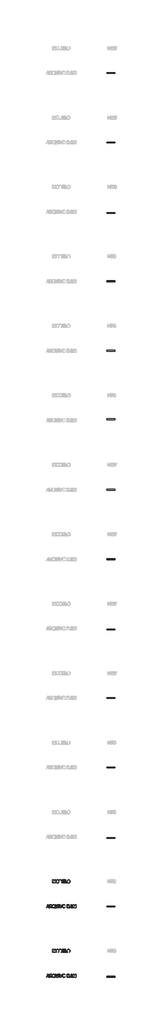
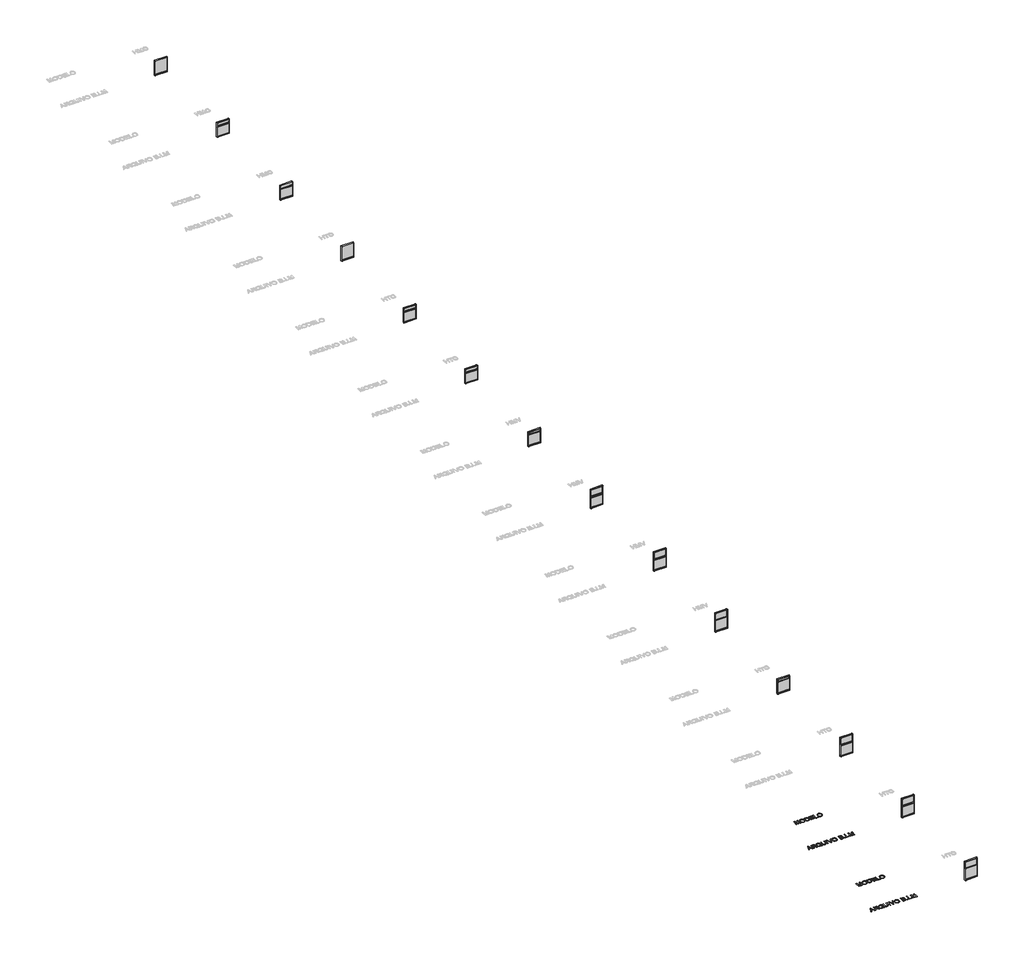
# One storey, part 1 of 8: 14 furniture elements, 4 proxies.
"""IFC4 building model written with IfcOpenShell, lengths in millimetres."""

from ifc_helpers import new_model, si_unit, origin, origin_with_axes, place, context, project, spatial, polyline, outline, extrude, transform, mapped, element, save
from components import hmc_0810_8c3ba47c, hmc_0810b_49ee08f0, hmc_0810bd_d5e68017, hmv_0810_a3c802d2, hmv_0813_b_0aa352a4, hmv_0813_bd_09db433a, hmv_0813sb_63d43438

model = new_model("IFC4")

# Units and contexts
model_context = context("Model", 3, world=origin())
ifc_project = project(units=[si_unit("LENGTHUNIT", "METRE", prefix="MILLI")], contexts=[model_context])

# Site, building, storey
site = spatial("IfcSite", under=ifc_project)
building = spatial("IfcBuilding", under=site)
storey = spatial("IfcBuildingStorey", under=building, Name="Marelli - Linha HABITAT - Planta Baixa", Elevation=0.0)

# Proxies
placement = place(None, origin())
element("IfcBuildingElementProxy", 1, Name="300mm Arial", ObjectType="300mm Arial", at=placement, inside=storey, context=model_context, shape_type="SweptSolid", body=[
    extrude(outline(polyline([(29390.580402, -80280.5663201), (29510.8778144, -79979.1973896), (29542.9571244, -79979.1973896), (29663.2545368, -80280.5663201), (29623.449705, -80280.5663201), (29588.9423738, -80186.3885293), (29464.8189886, -80186.3885293), (29430.3852339, -80280.5663201), (29390.580402, -80280.5663201)]), holes=[polyline([(29478.6513517, -80148.717413), (29575.1835872, -80148.717413), (29548.0338959, -80074.6259792), (29526.9174694, -80016.8685059), (29508.1554877, -80068.1512561), (29478.6513517, -80148.717413)])]), origin_with_axes(), (0.0, 0.0, 1.0), 10.0),
    extrude(outline(polyline([(29703.5008271, -80280.5663201), (29703.5008271, -79979.1973896), (29833.3631714, -79979.1973896), (29868.2659757, -79981.2299376), (29893.6590304, -79987.3275817), (29912.2186771, -79998.5847708), (29926.6212572, -80016.0959537), (29935.8642923, -80037.8101885), (29938.945304, -80061.6765329), (29933.8409413, -80091.3646099), (29918.5278533, -80115.9759154), (29906.9280741, -80126.0052983), (29892.5461874, -80134.0205273), (29855.4360911, -80144.0085235), (29876.8468232, -80160.1217548), (29907.3810288, -80198.8965171), (29957.6337094, -80280.5663201), (29913.855752, -80280.5663201), (29874.6395313, -80218.0999573), (29846.3126176, -80176.750021), (29826.4102017, -80157.2154871), (29808.4943485, -80150.0417882), (29786.642158, -80148.717413), (29741.1719434, -80148.717413), (29741.1719434, -80280.5663201), (29703.5008271, -80280.5663201)]), holes=[polyline([(29741.1719434, -80111.0462967), (29825.4904967, -80111.0462967), (29849.706329, -80109.7127245), (29868.4959019, -80105.7120078), (29882.6409647, -80098.7774322), (29892.9232664, -80088.6422832), (29899.1864574, -80076.3826157), (29901.2741877, -80063.0744845), (29897.2918651, -80044.6987789), (29885.3448973, -80029.8915286), (29864.7894908, -80020.1242616), (29834.9818522, -80016.8685059), (29741.1719434, -80016.8685059), (29741.1719434, -80111.0462967)])]), origin_with_axes(), (0.0, 0.0, 1.0), 10.0),
    extrude(outline(polyline([(30231.2643374, -80244.4403081), (30255.5997314, -80263.036743), (30277.9853508, -80275.8574305), (30267.8318077, -80303.4485802), (30236.7641732, -80289.0460001), (30205.8069033, -80268.205485), (30170.9500843, -80281.0077785), (30132.5983863, -80285.2752096), (30094.0627473, -80280.3547879), (30059.2427164, -80265.5935229), (30030.0788713, -80241.9203165), (30008.5117893, -80210.2640708), (29995.185264, -80172.3630282), (29990.7430889, -80129.9554312), (29995.176067, -80087.511046), (30008.4750011, -80049.0581805), (30029.9593096, -80016.9512794), (30058.9484108, -79993.5447874), (30093.639683, -79979.2525719), (30132.2305043, -79974.4885001), (30171.1248282, -79979.3629365), (30205.9908443, -79993.9862458), (30234.9339603, -80017.3835407), (30256.0595839, -80048.5799339), (30268.9722419, -80085.9199564), (30273.2764612, -80127.7481393), (30270.6644991, -80162.5313819), (30262.8286126, -80193.5990164), (30249.7136194, -80220.9142546), (30231.2643374, -80244.4403081)]), holes=[polyline([(30142.9726585, -80194.3347804), (30174.6472983, -80206.3093393), (30200.215097, -80222.9559996), (30215.6983305, -80205.4816049), (30226.7577829, -80184.1076609), (30233.3934544, -80158.8341679), (30235.6053449, -80129.6611256), (30232.478348, -80096.5057608), (30223.0973571, -80067.8201623), (30207.6922985, -80044.3308969), (30186.4930986, -80026.7645316), (30160.934497, -80015.8108452), (30132.4512335, -80012.1596164), (30110.966925, -80014.0059242), (30091.3956028, -80019.5448474), (30073.7372671, -80028.7763863), (30057.9919177, -80041.7005406), (30045.0516685, -80058.2897193), (30035.8086334, -80078.5163313), (30030.2628123, -80102.3803764), (30028.4142053, -80129.8818548), (30030.2421189, -80156.6659634), (30035.7258599, -80180.1437324), (30044.8654282, -80200.3151621), (30057.6608239, -80217.1802523), (30073.2981079, -80230.4906827), (30090.9633415, -80239.9981331), (30110.6565245, -80245.7026032), (30132.3776571, -80247.6040933), (30153.2917485, -80245.6727128), (30172.918253, -80239.8785714), (30153.6228423, -80229.853787), (30133.2605739, -80223.1767288), (30142.9726585, -80194.3347804)])]), origin_with_axes(), (0.0, 0.0, 1.0), 10.0),
    extrude(outline(polyline([(30527.5564963, -79979.1973896), (30565.2276126, -79979.1973896), (30565.2276126, -80153.0584205), (30562.6708327, -80193.7737604), (30555.0004931, -80225.1265034), (30540.6714894, -80249.3147446), (30518.1387172, -80268.5365788), (30487.3469942, -80281.0905519), (30448.2411381, -80285.2752096), (30409.9906077, -80281.6331779), (30379.4104168, -80270.7070826), (30356.4913685, -80252.8740029), (30341.2242657, -80228.5110178), (30332.6434182, -80195.8338995), (30329.7831357, -80153.0584205), (30329.7831357, -79979.1973896), (30367.454252, -79979.1973896), (30367.454252, -80151.7340454), (30369.3120561, -80185.588386), (30374.8854683, -80209.1604248), (30384.9838291, -80225.4851883), (30400.4164788, -80237.597703), (30420.5396239, -80245.1024957), (30444.709471, -80247.6040933), (30483.0243808, -80242.6560805), (30497.3671801, -80236.4710644), (30508.500209, -80227.812042), (30516.8373347, -80215.6351479), (30522.7924245, -80198.8965171), (30527.5564963, -80151.7340454), (30527.5564963, -79979.1973896)])), origin_with_axes(), (0.0, 0.0, 1.0), 10.0),
    extrude(outline(polyline([(30635.8609557, -80280.5663201), (30635.8609557, -79979.1973896), (30673.532072, -79979.1973896), (30673.532072, -80280.5663201), (30635.8609557, -80280.5663201)])), origin_with_axes(), (0.0, 0.0, 1.0), 10.0),
    extrude(outline(polyline([(30837.9017474, -80280.5663201), (30717.972217, -79979.1973896), (30758.2920837, -79979.1973896), (30838.563935, -80196.3213432), (30854.8243192, -80245.2496485), (30870.8639742, -80196.3213432), (30951.3565547, -79979.1973896), (30991.6764214, -79979.1973896), (30876.8236625, -80280.5663201), (30837.9017474, -80280.5663201)])), origin_with_axes(), (0.0, 0.0, 1.0), 10.0),
    extrude(outline(polyline([(31012.5721187, -80133.8549804), (31015.0829134, -80098.5061192), (31022.6152972, -80067.213157), (31035.1692703, -80039.9760937), (31052.7448326, -80016.7949295), (31074.288922, -79998.2858666), (31098.7484761, -79985.0651074), (31126.1234951, -79977.1326519), (31156.4139789, -79974.4885001), (31195.9428992, -79979.454907), (31231.3883295, -79994.3541278), (31260.8188891, -80018.1376988), (31282.3031976, -80049.7571563), (31295.4365848, -80087.68579), (31299.8143806, -80130.3968896), (31295.2066586, -80173.6782064), (31281.3834926, -80212.140269), (31259.1082378, -80243.8149088), (31229.1442493, -80266.733957), (31194.0023217, -80280.6398965), (31156.1932497, -80285.2752096), (31116.057324, -80280.1524528), (31080.4095587, -80264.7841825), (31051.0525754, -80240.5591531), (31029.7889961, -80208.8661192), (31016.8763381, -80172.3998164), (31012.5721187, -80133.8549804)]), holes=[polyline([(31050.2432351, -80134.2228624), (31052.126331, -80159.1974513), (31057.7756189, -80181.3669401), (31067.1910987, -80200.7313286), (31080.3727705, -80217.2906169), (31096.3963306, -80230.5527628), (31114.3374757, -80240.0257242), (31134.1962056, -80245.709501), (31155.9725205, -80247.6040933), (31178.1213158, -80245.6911069), (31198.2145706, -80239.9521478), (31216.2522846, -80230.3872159), (31232.2344581, -80216.9963113), (31245.3195608, -80200.0875351), (31254.6660627, -80179.9689885), (31260.2739639, -80156.6406715), (31262.1432643, -80130.102584), (31258.9426909, -80096.7540812), (31249.3409708, -80067.9305269), (31233.5864244, -80044.358488), (31211.9273719, -80026.7645316), (31185.7985532, -80015.8108452), (31156.6347081, -80012.1596164), (31135.6148506, -80013.9185522), (31116.1125063, -80019.1953595), (31098.1276753, -80027.9900385), (31081.6603574, -80040.302589), (31067.9153664, -80056.7262208), (31058.0975157, -80077.8541437), (31052.2068052, -80103.6863575), (31050.2432351, -80134.2228624)])]), origin_with_axes(), (0.0, 0.0, 1.0), 10.0),
    extrude(outline(polyline([(31469.334404, -80280.5663201), (31469.334404, -79979.1973896), (31584.3343157, -79979.1973896), (31615.9629702, -79981.4138786), (31640.6570491, -79988.0633457), (31659.5845778, -79999.3113377), (31673.9135815, -80015.3234015), (31682.9358874, -80034.1589597), (31685.9433227, -80053.8774346), (31683.414134, -80072.0232141), (31675.8265679, -80089.0837416), (31663.125442, -80104.0105535), (31645.2555741, -80115.7551862), (31666.6019268, -80126.9020107), (31682.3748674, -80143.8613707), (31692.1145432, -80165.5112261), (31695.3611018, -80190.7295368), (31693.1446128, -80211.7447958), (31686.4951457, -80231.2333445), (31676.5715289, -80247.8064284), (31664.5325906, -80260.0752929), (31649.7897196, -80268.9596431), (31631.7543048, -80275.3791839), (31583.4513989, -80280.5663201), (31469.334404, -80280.5663201)]), holes=[polyline([(31507.0055203, -80101.6285176), (31575.7994534, -80101.6285176), (31615.9721672, -80098.3911561), (31630.0344565, -80092.8085468), (31640.1420143, -80084.4484284), (31646.2396584, -80073.4395597), (31648.2722064, -80059.9106994), (31646.3776141, -80046.7773121), (31640.6938373, -80035.3361821), (31631.4783933, -80026.4058467), (31618.9887996, -80020.8048433), (31570.575529, -80016.8685059), (31507.0055203, -80016.8685059), (31507.0055203, -80101.6285176)]), polyline([(31507.0055203, -80242.8952038), (31584.2607393, -80242.8952038), (31612.2197709, -80241.4236758), (31635.8745832, -80233.2199073), (31651.5463562, -80216.4812765), (31656.1540782, -80204.6538704), (31657.6899855, -80191.0974188), (31655.8873637, -80175.3520694), (31650.4794984, -80161.814012), (31641.0341282, -80151.2282076), (31627.1189917, -80144.3396173), (31607.4097138, -80140.5596298), (31580.5819193, -80139.2996339), (31507.0055203, -80139.2996339), (31507.0055203, -80242.8952038)])]), origin_with_axes(), (0.0, 0.0, 1.0), 10.0),
    extrude(outline(polyline([(31751.8677763, -80280.5663201), (31751.8677763, -80242.8952038), (31789.5388926, -80242.8952038), (31789.5388926, -80280.5663201), (31751.8677763, -80280.5663201)])), origin_with_axes(), (0.0, 0.0, 1.0), 10.0),
    extrude(outline(polyline([(31869.5900147, -80280.5663201), (31869.5900147, -79979.1973896), (31907.261131, -79979.1973896), (31907.261131, -80280.5663201), (31869.5900147, -80280.5663201)])), origin_with_axes(), (0.0, 0.0, 1.0), 10.0),
    extrude(outline(polyline([(31987.3122532, -80280.5663201), (31987.3122532, -80242.8952038), (32024.9833695, -80242.8952038), (32024.9833695, -80280.5663201), (31987.3122532, -80280.5663201)])), origin_with_axes(), (0.0, 0.0, 1.0), 10.0),
    extrude(outline(polyline([(32100.3256021, -80280.5663201), (32100.3256021, -79979.1973896), (32165.1464096, -79979.1973896), (32226.803432, -80191.6124536), (32239.2378435, -80235.9790223), (32252.7023245, -80187.9336337), (32313.3292773, -79979.1973896), (32378.1500848, -79979.1973896), (32378.1500848, -80280.5663201), (32340.4789685, -80280.5663201), (32340.4789685, -80016.8685059), (32264.7688539, -80280.5663201), (32213.706833, -80280.5663201), (32137.9967184, -80016.8685059), (32137.9967184, -80280.5663201), (32100.3256021, -80280.5663201)])), origin_with_axes(), (0.0, 0.0, 1.0), 10.0),
])
element("IfcBuildingElementProxy", 2, Name="300mm Arial", ObjectType="300mm Arial", at=placement, inside=storey, context=model_context, shape_type="SweptSolid", body=[
    extrude(outline(polyline([(30033.1230948, -77780.5663201), (30033.1230948, -77479.1973896), (30097.9439023, -77479.1973896), (30159.6009247, -77691.6124536), (30172.0353362, -77735.9790223), (30185.4998172, -77687.9336337), (30246.12677, -77479.1973896), (30310.9475775, -77479.1973896), (30310.9475775, -77780.5663201), (30273.2764612, -77780.5663201), (30273.2764612, -77516.8685059), (30197.5663466, -77780.5663201), (30146.5043257, -77780.5663201), (30070.7942111, -77516.8685059), (30070.7942111, -77780.5663201), (30033.1230948, -77780.5663201)])), origin_with_axes(), (0.0, 0.0, 1.0), 10.0),
    extrude(outline(polyline([(30362.7453625, -77633.8549804), (30365.2561571, -77598.5061192), (30372.7885409, -77567.213157), (30385.342514, -77539.9760937), (30402.9180763, -77516.7949295), (30424.4621657, -77498.2858666), (30448.9217198, -77485.0651074), (30476.2967388, -77477.1326519), (30506.5872226, -77474.4885001), (30546.116143, -77479.454907), (30581.5615732, -77494.3541278), (30610.9921328, -77518.1376988), (30632.4764413, -77549.7571563), (30645.6098286, -77587.68579), (30649.9876243, -77630.3968896), (30645.3799023, -77673.6782064), (30631.5567363, -77712.140269), (30609.2814815, -77743.8149088), (30579.317493, -77766.733957), (30544.1755654, -77780.6398965), (30506.3664934, -77785.2752096), (30466.2305677, -77780.1524528), (30430.5828024, -77764.7841825), (30401.2258192, -77740.5591531), (30379.9622398, -77708.8661192), (30367.0495818, -77672.3998164), (30362.7453625, -77633.8549804)]), holes=[polyline([(30400.4164788, -77634.2228624), (30402.2995747, -77659.1974513), (30407.9488626, -77681.3669401), (30417.3643424, -77700.7313286), (30430.5460142, -77717.2906169), (30446.5695743, -77730.5527628), (30464.5107194, -77740.0257242), (30484.3694493, -77745.709501), (30506.1457642, -77747.6040933), (30528.2945596, -77745.6911069), (30548.3878143, -77739.9521478), (30566.4255284, -77730.3872159), (30582.4077018, -77716.9963113), (30595.4928045, -77700.0875351), (30604.8393064, -77679.9689885), (30610.4472076, -77656.6406715), (30612.316508, -77630.102584), (30609.1159346, -77596.7540812), (30599.5142146, -77567.9305269), (30583.7596681, -77544.358488), (30562.1006157, -77526.7645316), (30535.9717969, -77515.8108452), (30506.8079518, -77512.1596164), (30485.7880943, -77513.9185522), (30466.28575, -77519.1953595), (30448.300919, -77527.9900385), (30431.8336012, -77540.302589), (30418.0886101, -77556.7262208), (30408.2707594, -77577.8541437), (30402.3800489, -77603.6863575), (30400.4164788, -77634.2228624)])]), origin_with_axes(), (0.0, 0.0, 1.0), 10.0),
    extrude(outline(polyline([(30701.7854092, -77780.5663201), (30701.7854092, -77479.1973896), (30805.7488611, -77479.1973896), (30859.5332088, -77483.5383972), (30883.555903, -77491.9077126), (30903.826201, -77505.0962821), (30924.666716, -77528.0521186), (30939.5107545, -77556.5997614), (30948.3951047, -77590.1873876), (30951.3565547, -77628.2631741), (30949.3515979, -77660.6091985), (30943.3367273, -77689.0740679), (30934.1764656, -77713.3082943), (30922.7353355, -77732.9623899), (30909.5651601, -77748.477813), (30895.2177623, -77760.2960221), (30878.745846, -77769.0608107), (30859.202115, -77775.4159721), (30810.7520562, -77780.5663201), (30701.7854092, -77780.5663201)]), holes=[polyline([(30739.4565255, -77742.8952038), (30806.1167431, -77742.8952038), (30833.6894986, -77741.5340404), (30854.60359, -77737.4505502), (30870.3857276, -77730.8838566), (30882.5626217, -77722.0730828), (30895.6500236, -77705.7667134), (30905.48167, -77684.6594839), (30911.6344963, -77658.6594239), (30913.6854384, -77627.6745629), (30909.6663276, -77586.6189322), (30897.6089953, -77556.3054558), (30879.7943096, -77535.4833349), (30858.5031392, -77522.9017706), (30836.8348897, -77518.3768221), (30805.0866735, -77516.8685059), (30739.4565255, -77516.8685059), (30739.4565255, -77742.8952038)])]), origin_with_axes(), (0.0, 0.0, 1.0), 10.0),
    extrude(outline(polyline([(31003.1543397, -77780.5663201), (31003.1543397, -77479.1973896), (31219.7632584, -77479.1973896), (31219.7632584, -77516.8685059), (31040.825456, -77516.8685059), (31040.825456, -77606.3374072), (31210.3454794, -77606.3374072), (31210.3454794, -77644.0085235), (31040.825456, -77644.0085235), (31040.825456, -77742.8952038), (31224.472148, -77742.8952038), (31224.472148, -77780.5663201), (31003.1543397, -77780.5663201)])), origin_with_axes(), (0.0, 0.0, 1.0), 10.0),
    extrude(outline(polyline([(31280.9788224, -77780.5663201), (31280.9788224, -77479.1973896), (31318.6499387, -77479.1973896), (31318.6499387, -77742.8952038), (31469.334404, -77742.8952038), (31469.334404, -77780.5663201), (31280.9788224, -77780.5663201)])), origin_with_axes(), (0.0, 0.0, 1.0), 10.0),
    extrude(outline(polyline([(31497.5877412, -77633.8549804), (31500.0985358, -77598.5061192), (31507.6309197, -77567.213157), (31520.1848927, -77539.9760937), (31537.7604551, -77516.7949295), (31559.3045444, -77498.2858666), (31583.7640986, -77485.0651074), (31611.1391175, -77477.1326519), (31641.4296013, -77474.4885001), (31680.9585217, -77479.454907), (31716.4039519, -77494.3541278), (31745.8345115, -77518.1376988), (31767.3188201, -77549.7571563), (31780.4522073, -77587.68579), (31784.830003, -77630.3968896), (31780.222281, -77673.6782064), (31766.3991151, -77712.140269), (31744.1238603, -77743.8149088), (31714.1598717, -77766.733957), (31679.0179442, -77780.6398965), (31641.2088721, -77785.2752096), (31601.0729464, -77780.1524528), (31565.4251811, -77764.7841825), (31536.0681979, -77740.5591531), (31514.8046186, -77708.8661192), (31501.8919605, -77672.3998164), (31497.5877412, -77633.8549804)]), holes=[polyline([(31535.2588575, -77634.2228624), (31537.1419535, -77659.1974513), (31542.7912413, -77681.3669401), (31552.2067212, -77700.7313286), (31565.3883929, -77717.2906169), (31581.4119531, -77730.5527628), (31599.3530981, -77740.0257242), (31619.2118281, -77745.709501), (31640.9881429, -77747.6040933), (31663.1369383, -77745.6911069), (31683.230193, -77739.9521478), (31701.2679071, -77730.3872159), (31717.2500805, -77716.9963113), (31730.3351832, -77700.0875351), (31739.6816852, -77679.9689885), (31745.2895863, -77656.6406715), (31747.1588867, -77630.102584), (31743.9583134, -77596.7540812), (31734.3565933, -77567.9305269), (31718.6020468, -77544.358488), (31696.9429944, -77526.7645316), (31670.8141757, -77515.8108452), (31641.6503305, -77512.1596164), (31620.630473, -77513.9185522), (31601.1281287, -77519.1953595), (31583.1432977, -77527.9900385), (31566.6759799, -77540.302589), (31552.9309888, -77556.7262208), (31543.1131381, -77577.8541437), (31537.2224276, -77603.6863575), (31535.2588575, -77634.2228624)])]), origin_with_axes(), (0.0, 0.0, 1.0), 10.0),
])
element("IfcBuildingElementProxy", 3, Name="300mm Arial", ObjectType="300mm Arial", at=placement, inside=storey, context=model_context, shape_type="SweptSolid", body=[
    extrude(outline(polyline([(29390.580402, -87280.5663201), (29510.8778144, -86979.1973896), (29542.9571244, -86979.1973896), (29663.2545368, -87280.5663201), (29623.449705, -87280.5663201), (29588.9423738, -87186.3885293), (29464.8189886, -87186.3885293), (29430.3852339, -87280.5663201), (29390.580402, -87280.5663201)]), holes=[polyline([(29478.6513517, -87148.717413), (29575.1835872, -87148.717413), (29548.0338959, -87074.6259792), (29526.9174694, -87016.8685059), (29508.1554877, -87068.1512561), (29478.6513517, -87148.717413)])]), origin_with_axes(), (0.0, 0.0, 1.0), 10.0),
    extrude(outline(polyline([(29703.5008271, -87280.5663201), (29703.5008271, -86979.1973896), (29833.3631714, -86979.1973896), (29868.2659757, -86981.2299376), (29893.6590304, -86987.3275817), (29912.2186771, -86998.5847708), (29926.6212572, -87016.0959537), (29935.8642923, -87037.8101885), (29938.945304, -87061.6765329), (29933.8409413, -87091.3646099), (29918.5278533, -87115.9759154), (29906.9280741, -87126.0052983), (29892.5461874, -87134.0205273), (29855.4360911, -87144.0085235), (29876.8468232, -87160.1217548), (29907.3810288, -87198.8965171), (29957.6337094, -87280.5663201), (29913.855752, -87280.5663201), (29874.6395313, -87218.0999573), (29846.3126176, -87176.750021), (29826.4102017, -87157.2154871), (29808.4943485, -87150.0417882), (29786.642158, -87148.717413), (29741.1719434, -87148.717413), (29741.1719434, -87280.5663201), (29703.5008271, -87280.5663201)]), holes=[polyline([(29741.1719434, -87111.0462967), (29825.4904967, -87111.0462967), (29849.706329, -87109.7127245), (29868.4959019, -87105.7120078), (29882.6409647, -87098.7774322), (29892.9232664, -87088.6422832), (29899.1864574, -87076.3826157), (29901.2741877, -87063.0744845), (29897.2918651, -87044.6987789), (29885.3448973, -87029.8915286), (29864.7894908, -87020.1242616), (29834.9818522, -87016.8685059), (29741.1719434, -87016.8685059), (29741.1719434, -87111.0462967)])]), origin_with_axes(), (0.0, 0.0, 1.0), 10.0),
    extrude(outline(polyline([(30231.2643374, -87244.4403081), (30255.5997314, -87263.036743), (30277.9853508, -87275.8574305), (30267.8318077, -87303.4485802), (30236.7641732, -87289.0460001), (30205.8069033, -87268.205485), (30170.9500843, -87281.0077785), (30132.5983863, -87285.2752096), (30094.0627473, -87280.3547879), (30059.2427164, -87265.5935229), (30030.0788713, -87241.9203165), (30008.5117893, -87210.2640708), (29995.185264, -87172.3630282), (29990.7430889, -87129.9554312), (29995.176067, -87087.511046), (30008.4750011, -87049.0581805), (30029.9593096, -87016.9512794), (30058.9484108, -86993.5447874), (30093.639683, -86979.2525719), (30132.2305043, -86974.4885001), (30171.1248282, -86979.3629365), (30205.9908443, -86993.9862458), (30234.9339603, -87017.3835407), (30256.0595839, -87048.5799339), (30268.9722419, -87085.9199564), (30273.2764612, -87127.7481393), (30270.6644991, -87162.5313819), (30262.8286126, -87193.5990164), (30249.7136194, -87220.9142546), (30231.2643374, -87244.4403081)]), holes=[polyline([(30142.9726585, -87194.3347804), (30174.6472983, -87206.3093393), (30200.215097, -87222.9559996), (30215.6983305, -87205.4816049), (30226.7577829, -87184.1076609), (30233.3934544, -87158.8341679), (30235.6053449, -87129.6611256), (30232.478348, -87096.5057608), (30223.0973571, -87067.8201623), (30207.6922985, -87044.3308969), (30186.4930986, -87026.7645316), (30160.934497, -87015.8108452), (30132.4512335, -87012.1596164), (30110.966925, -87014.0059242), (30091.3956028, -87019.5448474), (30073.7372671, -87028.7763863), (30057.9919177, -87041.7005406), (30045.0516685, -87058.2897193), (30035.8086334, -87078.5163313), (30030.2628123, -87102.3803764), (30028.4142052, -87129.8818548), (30030.2421189, -87156.6659634), (30035.7258599, -87180.1437324), (30044.8654282, -87200.3151621), (30057.6608239, -87217.1802523), (30073.2981079, -87230.4906827), (30090.9633415, -87239.9981331), (30110.6565245, -87245.7026032), (30132.3776571, -87247.6040933), (30153.2917485, -87245.6727128), (30172.918253, -87239.8785714), (30153.6228423, -87229.853787), (30133.2605739, -87223.1767288), (30142.9726585, -87194.3347804)])]), origin_with_axes(), (0.0, 0.0, 1.0), 10.0),
    extrude(outline(polyline([(30527.5564963, -86979.1973896), (30565.2276126, -86979.1973896), (30565.2276126, -87153.0584205), (30562.6708327, -87193.7737604), (30555.0004931, -87225.1265034), (30540.6714894, -87249.3147446), (30518.1387172, -87268.5365788), (30487.3469942, -87281.0905519), (30448.2411381, -87285.2752096), (30409.9906077, -87281.6331779), (30379.4104168, -87270.7070826), (30356.4913685, -87252.8740029), (30341.2242657, -87228.5110178), (30332.6434182, -87195.8338995), (30329.7831357, -87153.0584205), (30329.7831357, -86979.1973896), (30367.454252, -86979.1973896), (30367.454252, -87151.7340454), (30369.3120561, -87185.588386), (30374.8854683, -87209.1604248), (30384.9838291, -87225.4851883), (30400.4164788, -87237.597703), (30420.5396239, -87245.1024957), (30444.709471, -87247.6040933), (30483.0243808, -87242.6560805), (30497.3671801, -87236.4710644), (30508.500209, -87227.812042), (30516.8373347, -87215.6351479), (30522.7924245, -87198.8965171), (30527.5564963, -87151.7340454), (30527.5564963, -86979.1973896)])), origin_with_axes(), (0.0, 0.0, 1.0), 10.0),
    extrude(outline(polyline([(30635.8609557, -87280.5663201), (30635.8609557, -86979.1973896), (30673.532072, -86979.1973896), (30673.532072, -87280.5663201), (30635.8609557, -87280.5663201)])), origin_with_axes(), (0.0, 0.0, 1.0), 10.0),
    extrude(outline(polyline([(30837.9017474, -87280.5663201), (30717.972217, -86979.1973896), (30758.2920837, -86979.1973896), (30838.563935, -87196.3213432), (30854.8243192, -87245.2496485), (30870.8639742, -87196.3213432), (30951.3565547, -86979.1973896), (30991.6764214, -86979.1973896), (30876.8236625, -87280.5663201), (30837.9017474, -87280.5663201)])), origin_with_axes(), (0.0, 0.0, 1.0), 10.0),
    extrude(outline(polyline([(31012.5721187, -87133.8549804), (31015.0829134, -87098.5061192), (31022.6152972, -87067.213157), (31035.1692703, -87039.9760937), (31052.7448326, -87016.7949295), (31074.288922, -86998.2858666), (31098.7484761, -86985.0651074), (31126.1234951, -86977.1326519), (31156.4139789, -86974.4885001), (31195.9428992, -86979.454907), (31231.3883295, -86994.3541278), (31260.8188891, -87018.1376988), (31282.3031976, -87049.7571563), (31295.4365848, -87087.68579), (31299.8143806, -87130.3968896), (31295.2066586, -87173.6782064), (31281.3834926, -87212.140269), (31259.1082378, -87243.8149088), (31229.1442493, -87266.733957), (31194.0023217, -87280.6398965), (31156.1932497, -87285.2752096), (31116.057324, -87280.1524528), (31080.4095587, -87264.7841825), (31051.0525754, -87240.5591531), (31029.7889961, -87208.8661192), (31016.8763381, -87172.3998164), (31012.5721187, -87133.8549804)]), holes=[polyline([(31050.2432351, -87134.2228624), (31052.126331, -87159.1974513), (31057.7756189, -87181.3669401), (31067.1910987, -87200.7313286), (31080.3727705, -87217.2906169), (31096.3963306, -87230.5527628), (31114.3374757, -87240.0257242), (31134.1962056, -87245.709501), (31155.9725205, -87247.6040933), (31178.1213158, -87245.6911069), (31198.2145706, -87239.9521478), (31216.2522846, -87230.3872159), (31232.2344581, -87216.9963113), (31245.3195608, -87200.0875351), (31254.6660627, -87179.9689885), (31260.2739639, -87156.6406715), (31262.1432643, -87130.102584), (31258.9426909, -87096.7540812), (31249.3409708, -87067.9305269), (31233.5864244, -87044.358488), (31211.9273719, -87026.7645316), (31185.7985532, -87015.8108452), (31156.6347081, -87012.1596164), (31135.6148506, -87013.9185522), (31116.1125063, -87019.1953595), (31098.1276753, -87027.9900385), (31081.6603574, -87040.302589), (31067.9153664, -87056.7262208), (31058.0975157, -87077.8541437), (31052.2068052, -87103.6863575), (31050.2432351, -87134.2228624)])]), origin_with_axes(), (0.0, 0.0, 1.0), 10.0),
    extrude(outline(polyline([(31469.334404, -87280.5663201), (31469.334404, -86979.1973896), (31584.3343157, -86979.1973896), (31615.9629702, -86981.4138786), (31640.6570491, -86988.0633457), (31659.5845778, -86999.3113377), (31673.9135815, -87015.3234015), (31682.9358874, -87034.1589597), (31685.9433227, -87053.8774346), (31683.414134, -87072.0232141), (31675.8265679, -87089.0837416), (31663.125442, -87104.0105535), (31645.2555741, -87115.7551862), (31666.6019268, -87126.9020107), (31682.3748674, -87143.8613707), (31692.1145432, -87165.5112261), (31695.3611018, -87190.7295368), (31693.1446128, -87211.7447958), (31686.4951457, -87231.2333445), (31676.5715289, -87247.8064284), (31664.5325906, -87260.0752929), (31649.7897196, -87268.9596431), (31631.7543048, -87275.3791839), (31583.4513989, -87280.5663201), (31469.334404, -87280.5663201)]), holes=[polyline([(31507.0055203, -87101.6285176), (31575.7994534, -87101.6285176), (31615.9721672, -87098.3911561), (31630.0344565, -87092.8085468), (31640.1420143, -87084.4484284), (31646.2396584, -87073.4395597), (31648.2722064, -87059.9106994), (31646.3776141, -87046.7773121), (31640.6938373, -87035.3361821), (31631.4783933, -87026.4058467), (31618.9887996, -87020.8048433), (31570.575529, -87016.8685059), (31507.0055203, -87016.8685059), (31507.0055203, -87101.6285176)]), polyline([(31507.0055203, -87242.8952038), (31584.2607393, -87242.8952038), (31612.2197709, -87241.4236758), (31635.8745832, -87233.2199073), (31651.5463562, -87216.4812765), (31656.1540782, -87204.6538704), (31657.6899855, -87191.0974188), (31655.8873637, -87175.3520694), (31650.4794984, -87161.814012), (31641.0341282, -87151.2282076), (31627.1189917, -87144.3396173), (31607.4097138, -87140.5596298), (31580.5819193, -87139.2996339), (31507.0055203, -87139.2996339), (31507.0055203, -87242.8952038)])]), origin_with_axes(), (0.0, 0.0, 1.0), 10.0),
    extrude(outline(polyline([(31751.8677763, -87280.5663201), (31751.8677763, -87242.8952038), (31789.5388926, -87242.8952038), (31789.5388926, -87280.5663201), (31751.8677763, -87280.5663201)])), origin_with_axes(), (0.0, 0.0, 1.0), 10.0),
    extrude(outline(polyline([(31869.5900147, -87280.5663201), (31869.5900147, -86979.1973896), (31907.261131, -86979.1973896), (31907.261131, -87280.5663201), (31869.5900147, -87280.5663201)])), origin_with_axes(), (0.0, 0.0, 1.0), 10.0),
    extrude(outline(polyline([(31987.3122532, -87280.5663201), (31987.3122532, -87242.8952038), (32024.9833695, -87242.8952038), (32024.9833695, -87280.5663201), (31987.3122532, -87280.5663201)])), origin_with_axes(), (0.0, 0.0, 1.0), 10.0),
    extrude(outline(polyline([(32100.3256021, -87280.5663201), (32100.3256021, -86979.1973896), (32165.1464096, -86979.1973896), (32226.803432, -87191.6124536), (32239.2378435, -87235.9790223), (32252.7023245, -87187.9336337), (32313.3292773, -86979.1973896), (32378.1500848, -86979.1973896), (32378.1500848, -87280.5663201), (32340.4789685, -87280.5663201), (32340.4789685, -87016.8685059), (32264.7688539, -87280.5663201), (32213.706833, -87280.5663201), (32137.9967184, -87016.8685059), (32137.9967184, -87280.5663201), (32100.3256021, -87280.5663201)])), origin_with_axes(), (0.0, 0.0, 1.0), 10.0),
])
element("IfcBuildingElementProxy", 4, Name="300mm Arial", ObjectType="300mm Arial", at=placement, inside=storey, context=model_context, shape_type="SweptSolid", body=[
    extrude(outline(polyline([(30033.1230948, -84780.5663201), (30033.1230948, -84479.1973896), (30097.9439023, -84479.1973896), (30159.6009247, -84691.6124536), (30172.0353362, -84735.9790223), (30185.4998172, -84687.9336337), (30246.12677, -84479.1973896), (30310.9475775, -84479.1973896), (30310.9475775, -84780.5663201), (30273.2764612, -84780.5663201), (30273.2764612, -84516.8685059), (30197.5663466, -84780.5663201), (30146.5043257, -84780.5663201), (30070.7942111, -84516.8685059), (30070.7942111, -84780.5663201), (30033.1230948, -84780.5663201)])), origin_with_axes(), (0.0, 0.0, 1.0), 10.0),
    extrude(outline(polyline([(30362.7453625, -84633.8549804), (30365.2561571, -84598.5061192), (30372.7885409, -84567.213157), (30385.342514, -84539.9760937), (30402.9180763, -84516.7949295), (30424.4621657, -84498.2858666), (30448.9217198, -84485.0651074), (30476.2967388, -84477.1326519), (30506.5872226, -84474.4885001), (30546.116143, -84479.454907), (30581.5615732, -84494.3541278), (30610.9921328, -84518.1376988), (30632.4764413, -84549.7571563), (30645.6098286, -84587.68579), (30649.9876243, -84630.3968896), (30645.3799023, -84673.6782064), (30631.5567363, -84712.140269), (30609.2814815, -84743.8149088), (30579.317493, -84766.733957), (30544.1755654, -84780.6398965), (30506.3664934, -84785.2752096), (30466.2305677, -84780.1524528), (30430.5828024, -84764.7841825), (30401.2258192, -84740.5591531), (30379.9622398, -84708.8661192), (30367.0495818, -84672.3998164), (30362.7453625, -84633.8549804)]), holes=[polyline([(30400.4164788, -84634.2228624), (30402.2995747, -84659.1974513), (30407.9488626, -84681.3669401), (30417.3643424, -84700.7313286), (30430.5460142, -84717.2906169), (30446.5695743, -84730.5527628), (30464.5107194, -84740.0257242), (30484.3694493, -84745.709501), (30506.1457642, -84747.6040933), (30528.2945596, -84745.6911069), (30548.3878143, -84739.9521478), (30566.4255284, -84730.3872159), (30582.4077018, -84716.9963113), (30595.4928045, -84700.0875351), (30604.8393064, -84679.9689885), (30610.4472076, -84656.6406715), (30612.316508, -84630.102584), (30609.1159346, -84596.7540812), (30599.5142146, -84567.9305269), (30583.7596681, -84544.358488), (30562.1006157, -84526.7645316), (30535.9717969, -84515.8108452), (30506.8079518, -84512.1596164), (30485.7880943, -84513.9185522), (30466.28575, -84519.1953595), (30448.300919, -84527.9900385), (30431.8336012, -84540.302589), (30418.0886101, -84556.7262208), (30408.2707594, -84577.8541437), (30402.3800489, -84603.6863575), (30400.4164788, -84634.2228624)])]), origin_with_axes(), (0.0, 0.0, 1.0), 10.0),
    extrude(outline(polyline([(30701.7854092, -84780.5663201), (30701.7854092, -84479.1973896), (30805.7488611, -84479.1973896), (30859.5332088, -84483.5383972), (30883.555903, -84491.9077126), (30903.826201, -84505.0962821), (30924.666716, -84528.0521186), (30939.5107545, -84556.5997614), (30948.3951047, -84590.1873876), (30951.3565547, -84628.2631741), (30949.3515979, -84660.6091985), (30943.3367273, -84689.0740679), (30934.1764656, -84713.3082943), (30922.7353355, -84732.9623899), (30909.5651601, -84748.477813), (30895.2177623, -84760.2960221), (30878.745846, -84769.0608107), (30859.202115, -84775.4159721), (30810.7520562, -84780.5663201), (30701.7854092, -84780.5663201)]), holes=[polyline([(30739.4565255, -84742.8952038), (30806.1167431, -84742.8952038), (30833.6894986, -84741.5340404), (30854.60359, -84737.4505502), (30870.3857276, -84730.8838566), (30882.5626217, -84722.0730828), (30895.6500236, -84705.7667134), (30905.48167, -84684.6594839), (30911.6344963, -84658.6594239), (30913.6854384, -84627.6745629), (30909.6663276, -84586.6189322), (30897.6089953, -84556.3054558), (30879.7943096, -84535.4833349), (30858.5031392, -84522.9017706), (30836.8348897, -84518.3768221), (30805.0866735, -84516.8685059), (30739.4565255, -84516.8685059), (30739.4565255, -84742.8952038)])]), origin_with_axes(), (0.0, 0.0, 1.0), 10.0),
    extrude(outline(polyline([(31003.1543397, -84780.5663201), (31003.1543397, -84479.1973896), (31219.7632584, -84479.1973896), (31219.7632584, -84516.8685059), (31040.825456, -84516.8685059), (31040.825456, -84606.3374072), (31210.3454794, -84606.3374072), (31210.3454794, -84644.0085235), (31040.825456, -84644.0085235), (31040.825456, -84742.8952038), (31224.472148, -84742.8952038), (31224.472148, -84780.5663201), (31003.1543397, -84780.5663201)])), origin_with_axes(), (0.0, 0.0, 1.0), 10.0),
    extrude(outline(polyline([(31280.9788224, -84780.5663201), (31280.9788224, -84479.1973896), (31318.6499387, -84479.1973896), (31318.6499387, -84742.8952038), (31469.334404, -84742.8952038), (31469.334404, -84780.5663201), (31280.9788224, -84780.5663201)])), origin_with_axes(), (0.0, 0.0, 1.0), 10.0),
    extrude(outline(polyline([(31497.5877412, -84633.8549804), (31500.0985358, -84598.5061192), (31507.6309197, -84567.213157), (31520.1848927, -84539.9760937), (31537.7604551, -84516.7949295), (31559.3045444, -84498.2858666), (31583.7640986, -84485.0651074), (31611.1391175, -84477.1326519), (31641.4296013, -84474.4885001), (31680.9585217, -84479.454907), (31716.4039519, -84494.3541278), (31745.8345115, -84518.1376988), (31767.3188201, -84549.7571563), (31780.4522073, -84587.68579), (31784.830003, -84630.3968896), (31780.222281, -84673.6782064), (31766.3991151, -84712.140269), (31744.1238603, -84743.8149088), (31714.1598717, -84766.733957), (31679.0179442, -84780.6398965), (31641.2088721, -84785.2752096), (31601.0729464, -84780.1524528), (31565.4251811, -84764.7841825), (31536.0681979, -84740.5591531), (31514.8046186, -84708.8661192), (31501.8919605, -84672.3998164), (31497.5877412, -84633.8549804)]), holes=[polyline([(31535.2588575, -84634.2228624), (31537.1419535, -84659.1974513), (31542.7912413, -84681.3669401), (31552.2067212, -84700.7313286), (31565.3883929, -84717.2906169), (31581.4119531, -84730.5527628), (31599.3530981, -84740.0257242), (31619.2118281, -84745.709501), (31640.9881429, -84747.6040933), (31663.1369383, -84745.6911069), (31683.230193, -84739.9521478), (31701.2679071, -84730.3872159), (31717.2500805, -84716.9963113), (31730.3351832, -84700.0875351), (31739.6816852, -84679.9689885), (31745.2895863, -84656.6406715), (31747.1588867, -84630.102584), (31743.9583134, -84596.7540812), (31734.3565933, -84567.9305269), (31718.6020468, -84544.358488), (31696.9429944, -84526.7645316), (31670.8141757, -84515.8108452), (31641.6503305, -84512.1596164), (31620.630473, -84513.9185522), (31601.1281287, -84519.1953595), (31583.1432977, -84527.9900385), (31566.6759799, -84540.302589), (31552.9309888, -84556.7262208), (31543.1131381, -84577.8541437), (31537.2224276, -84603.6863575), (31535.2588575, -84634.2228624)])]), origin_with_axes(), (0.0, 0.0, 1.0), 10.0),
])

# Furniture
hmc_0810_shape = hmc_0810_8c3ba47c(model_context)
element("IfcFurniture", 5, ObjectType="Mobiliário_MobiliáriodeEscritório_LinhaHabitat_PainelHabitatCego-Melamina_Marelli : HMC 0810", at=placement, inside=storey, context=model_context, shape_type="MappedRepresentation", body=[
    mapped(hmc_0810_shape, transform((35501.9132146, 3819.4336799, 0.0), x_axis=(1.0, 0.0, 0.0), y_axis=(0.0, 1.0, 0.0), z_axis=(0.0, 0.0, 1.0))),
])
hmc_0810b_shape = hmc_0810b_49ee08f0(model_context)
element("IfcFurniture", 6, ObjectType="Mobiliário_MobiliáriodeEscritório_LinhaHabitat_PainelHabitatCego-MelaminaBasculante1Lado_Marelli : HMC 0810B", at=placement, inside=storey, context=model_context, shape_type="MappedRepresentation", body=[
    mapped(hmc_0810b_shape, transform((35501.9132146, -3180.5663201, 0.0), x_axis=(1.0, 0.0, 0.0), y_axis=(0.0, 1.0, 0.0), z_axis=(0.0, 0.0, 1.0))),
])
hmc_0810bd_shape = hmc_0810bd_d5e68017(model_context)
element("IfcFurniture", 7, ObjectType="Mobiliário_MobiliáriodeEscritório_LinhaHabitat_PainelHabitatCego-MelaminaBasculante2Lado_Marelli : HMC 0810BD", at=placement, inside=storey, context=model_context, shape_type="MappedRepresentation", body=[
    mapped(hmc_0810bd_shape, transform((35501.9132146, -10280.5663201, 0.0), x_axis=(1.0, 0.0, 0.0), y_axis=(0.0, 1.0, 0.0), z_axis=(0.0, 0.0, 1.0))),
])
hmv_0810_shape = hmv_0810_a3c802d2(model_context)
element("IfcFurniture", 8, ObjectType="Mobiliário_MobiliáriodeEscritório_LinhaHabitat_PainelHabitatMisto-MelaminaeVidro_Marelli : HMV 0810", at=placement, inside=storey, context=model_context, shape_type="MappedRepresentation", body=[
    mapped(hmv_0810_shape, transform((35501.9132146, -38180.5663201, 0.0), x_axis=(1.0, 0.0, 0.0), y_axis=(0.0, 1.0, 0.0), z_axis=(0.0, 0.0, 1.0))),
])
hmv_0813_b_shape = hmv_0813_b_0aa352a4(model_context)
element("IfcFurniture", 9, ObjectType="Mobiliário_MobiliáriodeEscritório_LinhaHabitat_PainelHabitatMisto-MelaminaeVidroBasculante1Lado_Marelli : HMV 0813 B", at=placement, inside=storey, context=model_context, shape_type="MappedRepresentation", body=[
    mapped(hmv_0813_b_shape, transform((35501.9132146, -45180.5663201, 0.0), x_axis=(1.0, 0.0, 0.0), y_axis=(0.0, 1.0, 0.0), z_axis=(0.0, 0.0, 1.0))),
])
hmv_0813_bd_shape = hmv_0813_bd_09db433a(model_context)
element("IfcFurniture", 10, ObjectType="Mobiliário_MobiliáriodeEscritório_LinhaHabitat_PainelHabitatMisto-MelaminaeVidroBasculante2Lado_Marelli : HMV 0813 BD", at=placement, inside=storey, context=model_context, shape_type="MappedRepresentation", body=[
    mapped(hmv_0813_bd_shape, transform((35501.9132146, -52280.5663201, 0.0), x_axis=(1.0, 0.0, 0.0), y_axis=(0.0, 1.0, 0.0), z_axis=(0.0, 0.0, 1.0))),
])
hmv_0813sb_shape = hmv_0813sb_63d43438(model_context)
element("IfcFurniture", 11, ObjectType="Mobiliário_MobiliáriodeEscritório_LinhaHabitat_PainelHabitatMisto-MelaminaeVidroSemBasculante_Marelli : HMV 0813SB", at=placement, inside=storey, context=model_context, shape_type="MappedRepresentation", body=[
    mapped(hmv_0813sb_shape, transform((35501.9132146, -59180.5663201, 0.0), x_axis=(1.0, 0.0, 0.0), y_axis=(0.0, 1.0, 0.0), z_axis=(0.0, 0.0, 1.0))),
])
element("IfcFurniture", 12, ObjectType="Mobiliário_MobiliáriodeEscritório_LinhaHabitat_PainelHabitatCego-Tecido_Marelli : HTC 0810", at=placement, inside=storey, context=model_context, shape_type="MappedRepresentation", body=[
    mapped(hmc_0810_shape, transform((35501.9132146, -17180.5663201, 0.0), x_axis=(1.0, 0.0, 0.0), y_axis=(0.0, 1.0, 0.0), z_axis=(0.0, 0.0, 1.0))),
])
element("IfcFurniture", 13, ObjectType="Mobiliário_MobiliáriodeEscritório_LinhaHabitat_PainelHabitatCego-TecidoBasculante1Lado_Marelli : HTC 0810B", at=placement, inside=storey, context=model_context, shape_type="MappedRepresentation", body=[
    mapped(hmc_0810b_shape, transform((35501.9132146, -24180.5663201, 0.0), x_axis=(1.0, 0.0, 0.0), y_axis=(0.0, 1.0, 0.0), z_axis=(0.0, 0.0, 1.0))),
])
element("IfcFurniture", 14, ObjectType="Mobiliário_MobiliáriodeEscritório_LinhaHabitat_PainelHabitatCego-TecidoBasculante2Lado_Marelli : HTC 0810BD", at=placement, inside=storey, context=model_context, shape_type="MappedRepresentation", body=[
    mapped(hmc_0810bd_shape, transform((35501.9132146, -31080.5663201, 0.0), x_axis=(1.0, 0.0, 0.0), y_axis=(0.0, 1.0, 0.0), z_axis=(0.0, 0.0, 1.0))),
])
element("IfcFurniture", 15, ObjectType="Mobiliário_MobiliáriodeEscritório_LinhaHabitat_PainelHabitatMisto-TecidoeVidro_Marelli : HTV 0810", at=placement, inside=storey, context=model_context, shape_type="MappedRepresentation", body=[
    mapped(hmv_0810_shape, transform((35501.9132146, -66180.5663201, 0.0), x_axis=(1.0, 0.0, 0.0), y_axis=(0.0, 1.0, 0.0), z_axis=(0.0, 0.0, 1.0))),
])
element("IfcFurniture", 16, ObjectType="Mobiliário_MobiliáriodeEscritório_LinhaHabitat_PainelHabitatMisto-TecidoeVidroBasculante1Lado_Marelli : HTV 0813 B", at=placement, inside=storey, context=model_context, shape_type="MappedRepresentation", body=[
    mapped(hmv_0813_b_shape, transform((35501.9132146, -73280.5663201, 0.0), x_axis=(1.0, 0.0, 0.0), y_axis=(0.0, 1.0, 0.0), z_axis=(0.0, 0.0, 1.0))),
])
element("IfcFurniture", 17, ObjectType="Mobiliário_MobiliáriodeEscritório_LinhaHabitat_PainelHabitatMisto-TecidoeVidroBasculante2Lado_Marelli : HTV 0813 BD", at=placement, inside=storey, context=model_context, shape_type="MappedRepresentation", body=[
    mapped(hmv_0813_bd_shape, transform((35501.9132146, -80180.5663201, 0.0), x_axis=(1.0, 0.0, 0.0), y_axis=(0.0, 1.0, 0.0), z_axis=(0.0, 0.0, 1.0))),
])
element("IfcFurniture", 18, ObjectType="Mobiliário_MobiliáriodeEscritório_LinhaHabitat_PainelHabitatMisto-TecidoeVidroSemBasculante_Marelli : HTV 0813SB", at=placement, inside=storey, context=model_context, shape_type="MappedRepresentation", body=[
    mapped(hmv_0813sb_shape, transform((35501.9132146, -87280.5663201, 0.0), x_axis=(1.0, 0.0, 0.0), y_axis=(0.0, 1.0, 0.0), z_axis=(0.0, 0.0, 1.0))),
])

save(model, "model.ifc")
